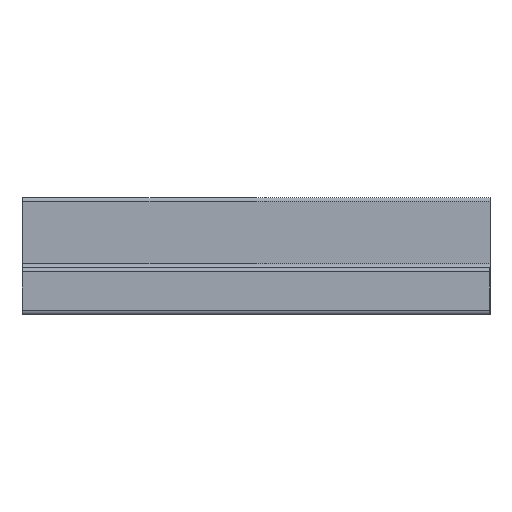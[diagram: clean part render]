
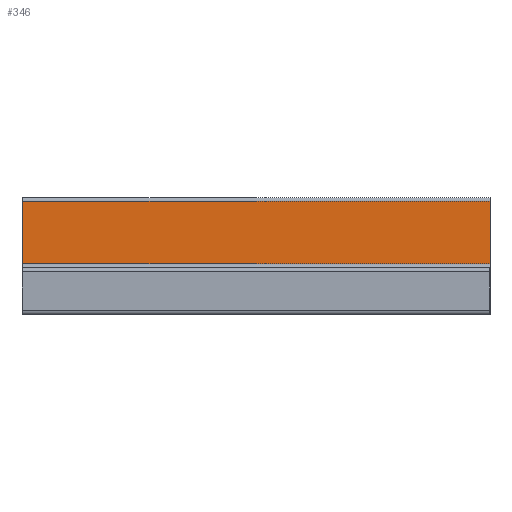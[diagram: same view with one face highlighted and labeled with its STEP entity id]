
A CAD part, left-side view. The second image highlights one B-rep face of the part: STEP entity #346.
In plain terms, the highlighted planar face has unit normal (-1, 0, 0).
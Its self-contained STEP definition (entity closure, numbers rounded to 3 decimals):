
#346=ADVANCED_FACE('',(#694),#695,.F.);
#694=FACE_OUTER_BOUND('',#1033,.T.);
#695=PLANE('',#1034);
#1033=EDGE_LOOP('',(#2105,#2106,#2107,#2108));
#1034=AXIS2_PLACEMENT_3D('',#2109,#2110,#2111);
#2105=ORIENTED_EDGE('',*,*,#2149,.T.);
#2106=ORIENTED_EDGE('',*,*,#2363,.F.);
#2107=ORIENTED_EDGE('',*,*,#2330,.F.);
#2108=ORIENTED_EDGE('',*,*,#2508,.T.);
#2109=CARTESIAN_POINT('',(0.0,0.,-0.5));
#2110=DIRECTION('',(1.0,0.0,0.0));
#2111=DIRECTION('',(0.0,1.0,0.0));
#2149=EDGE_CURVE('',#2614,#2612,#2615,.T.);
#2330=EDGE_CURVE('',#2926,#2928,#2929,.T.);
#2363=EDGE_CURVE('',#2928,#2612,#2985,.T.);
#2508=EDGE_CURVE('',#2926,#2614,#3154,.T.);
#2612=VERTEX_POINT('',#3276);
#2614=VERTEX_POINT('',#3278);
#2615=LINE('',#3279,#3280);
#2926=VERTEX_POINT('',#3703);
#2928=VERTEX_POINT('',#3705);
#2929=LINE('',#3706,#3707);
#2985=LINE('',#3778,#3779);
#3154=LINE('',#4063,#4064);
#3276=CARTESIAN_POINT('',(0.0,60.0,-8.5));
#3278=CARTESIAN_POINT('',(0.0,60.0,-0.5));
#3279=CARTESIAN_POINT('',(0.0,60.0,-0.5));
#3280=VECTOR('',#4176,1.0);
#3703=CARTESIAN_POINT('',(0.0,0.,-0.5));
#3705=CARTESIAN_POINT('',(0.0,0.,-8.5));
#3706=CARTESIAN_POINT('',(0.0,0.,-0.5));
#3707=VECTOR('',#4455,1.0);
#3778=CARTESIAN_POINT('',(0.0,0.,-8.5));
#3779=VECTOR('',#4513,1.0);
#4063=CARTESIAN_POINT('',(0.0,0.,-0.5));
#4064=VECTOR('',#4617,1.0);
#4176=DIRECTION('',(0.0,0.0,-1.0));
#4455=DIRECTION('',(0.0,0.0,-1.0));
#4513=DIRECTION('',(0.0,1.0,0.0));
#4617=DIRECTION('',(0.0,1.0,0.0));
